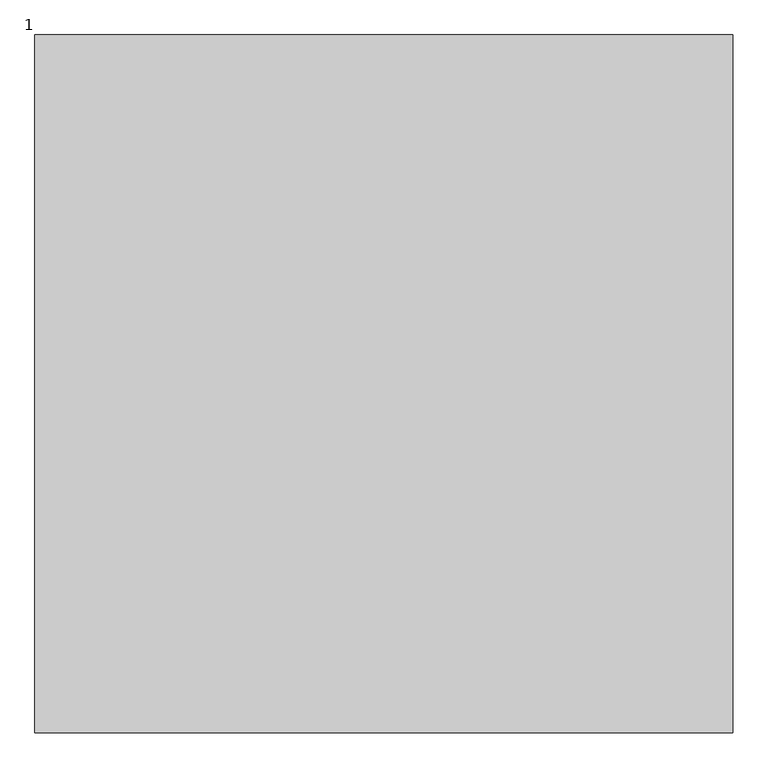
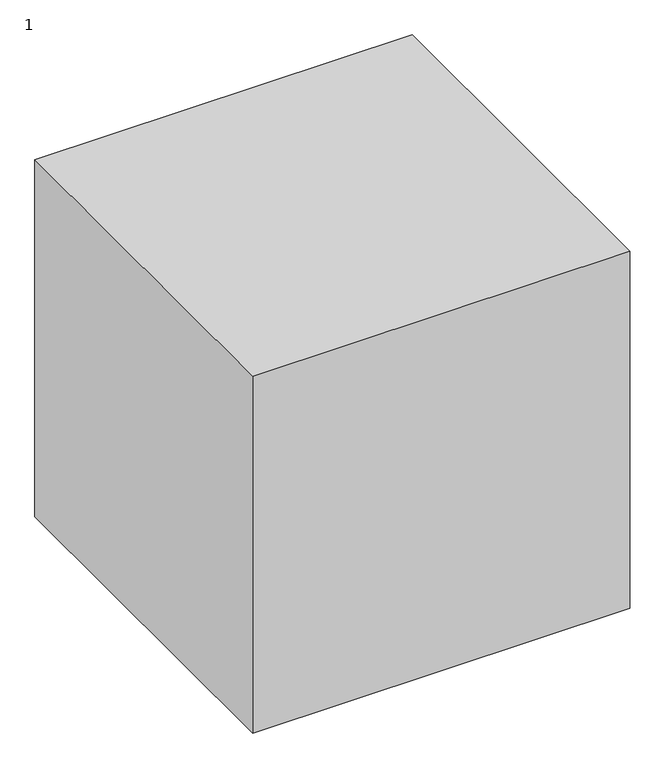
"""IFC4 building model written with IfcOpenShell, lengths in millimetres: proxy geometry, 122221111 : 1."""

from ifc_helpers import new_model, si_unit, origin, origin_with_axes, place, context, project, spatial, polyline, outline, extrude, source, transform, mapped, element, save


def proxy_1_c01c13fc(model_context):
    return source(origin(), model_context, "Body", "SweptSolid", [
        extrude(outline(polyline([(-14307.9756708, -8664.7705528), (-14307.9756708, -9664.7705528), (-15307.9756708, -9664.7705528), (-15307.9756708, -8664.7705528), (-14307.9756708, -8664.7705528)])), origin_with_axes(), (0.0, 0.0, 1.0), 1000.0),
    ])


if __name__ == "__main__":
    model = new_model("IFC4")
    model_context = context("Model", 3, world=origin())
    ifc_project = project(units=[si_unit("LENGTHUNIT", "METRE", prefix="MILLI")], contexts=[model_context])
    site = spatial("IfcSite", under=ifc_project)
    building = spatial("IfcBuilding", under=site)
    placement = place(None, origin())
    proxy_1_shape = proxy_1_c01c13fc(model_context)
    element("IfcBuildingElementProxy", 1, Name="122221111 : 1", ObjectType="122221111 : 1", at=placement, inside=building, context=model_context, shape_type="MappedRepresentation", body=[
        mapped(proxy_1_shape, transform((0.0, 0.0, 0.0), x_axis=(1.0, 0.0, 0.0), y_axis=(0.0, 1.0, 0.0), z_axis=(0.0, 0.0, 1.0))),
    ])
    save(model, "model.ifc")
